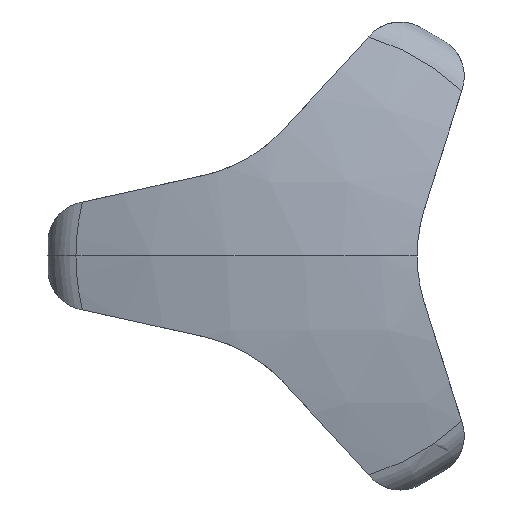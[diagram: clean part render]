
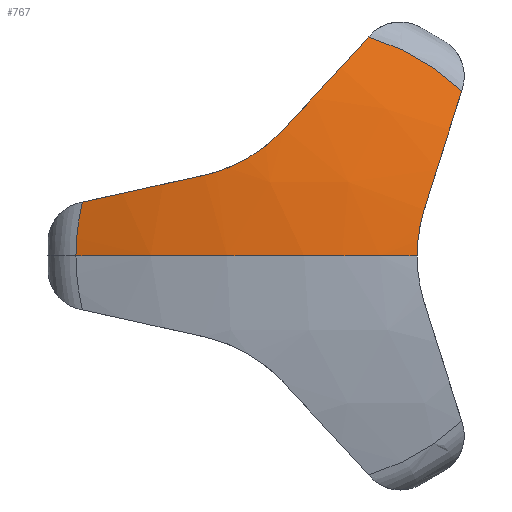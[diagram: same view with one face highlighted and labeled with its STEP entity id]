
A CAD part, left-side view. The second image highlights one B-rep face of the part: STEP entity #767.
In plain terms, the highlighted spherical face has radius 72 mm.
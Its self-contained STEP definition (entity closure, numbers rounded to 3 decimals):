
#14 = CARTESIAN_POINT ( 'NONE',  ( -29.112, 7.211, 8.674 ) ) ;
#37 = B_SPLINE_CURVE_WITH_KNOTS ( 'NONE', 3,
 ( #836, #1319, #205, #1063, #1564, #1096, #477, #1225 ),
 .UNSPECIFIED., .F., .F.,
 ( 4, 2, 2, 4 ),
 ( 0.005, 0.006, 0.007, 0.009 ),
 .UNSPECIFIED. ) ;
#46 = VERTEX_POINT ( 'NONE', #686 ) ;
#83 = CARTESIAN_POINT ( 'NONE',  ( -28.901, 9.753, 7.872 ) ) ;
#88 = ORIENTED_EDGE ( 'NONE', *, *, #1003, .T. ) ;
#108 = EDGE_CURVE ( 'NONE', #544, #272, #1503, .T. ) ;
#114 = ORIENTED_EDGE ( 'NONE', *, *, #646, .F. ) ;
#140 = EDGE_CURVE ( 'NONE', #524, #815, #1117, .T. ) ;
#160 = DIRECTION ( 'NONE',  ( 1., 0., 0. ) ) ;
#195 = CARTESIAN_POINT ( 'NONE',  ( -30., 0., 0. ) ) ;
#204 = AXIS2_PLACEMENT_3D ( 'NONE', #278, #773, #1155 ) ;
#205 = CARTESIAN_POINT ( 'NONE',  ( -29.149, -11.015, 0.77 ) ) ;
#222 = VERTEX_POINT ( 'NONE', #1600 ) ;
#240 = CARTESIAN_POINT ( 'NONE',  ( 42., 0., 0. ) ) ;
#243 = ORIENTED_EDGE ( 'NONE', *, *, #974, .T. ) ;
#244 = DIRECTION ( 'NONE',  ( 0., 0., 1. ) ) ;
#257 = DIRECTION ( 'NONE',  ( 0., 0., -1. ) ) ;
#272 = VERTEX_POINT ( 'NONE', #1267 ) ;
#278 = CARTESIAN_POINT ( 'NONE',  ( -26.481, 0., 0. ) ) ;
#281 = AXIS2_PLACEMENT_3D ( 'NONE', #354, #244, #492 ) ;
#292 = EDGE_CURVE ( 'NONE', #222, #1392, #1313, .T. ) ;
#326 = FACE_OUTER_BOUND ( 'NONE', #1479, .T. ) ;
#339 = AXIS2_PLACEMENT_3D ( 'NONE', #649, #160, #408 ) ;
#354 = CARTESIAN_POINT ( 'NONE',  ( 42., 0., 0. ) ) ;
#395 = CARTESIAN_POINT ( 'NONE',  ( -29.133, 4.2, 10.346 ) ) ;
#404 = EDGE_CURVE ( 'NONE', #46, #272, #881, .T. ) ;
#408 = DIRECTION ( 'NONE',  ( 0., 1., 0. ) ) ;
#417 = CIRCLE ( 'NONE', #339, 22.235 ) ;
#418 = DIRECTION ( 'NONE',  ( 0., -0.676, 0.737 ) ) ;
#422 = CARTESIAN_POINT ( 'NONE',  ( -29.128, 6.861, 8.825 ) ) ;
#434 = SPHERICAL_SURFACE ( 'NONE', #749, 72. ) ;
#449 = DIRECTION ( 'NONE',  ( 0., 0.954, 0.301 ) ) ;
#477 = CARTESIAN_POINT ( 'NONE',  ( -28.985, -11.464, 3.78 ) ) ;
#492 = DIRECTION ( 'NONE',  ( 0., -1., 0. ) ) ;
#511 = CARTESIAN_POINT ( 'NONE',  ( -29.155, 4.829, 9.914 ) ) ;
#521 = CARTESIAN_POINT ( 'NONE',  ( -28.901, 9.753, 7.872 ) ) ;
#524 = VERTEX_POINT ( 'NONE', #195 ) ;
#544 = VERTEX_POINT ( 'NONE', #825 ) ;
#565 = ORIENTED_EDGE ( 'NONE', *, *, #140, .T. ) ;
#593 = CIRCLE ( 'NONE', #934, 71.33 ) ;
#628 = CARTESIAN_POINT ( 'NONE',  ( 42., 7.223, 6.619 ) ) ;
#646 = EDGE_CURVE ( 'NONE', #1456, #1130, #417, .T. ) ;
#649 = CARTESIAN_POINT ( 'NONE',  ( -26.481, 0., 0. ) ) ;
#686 = CARTESIAN_POINT ( 'NONE',  ( -26.481, -6.262, 21.335 ) ) ;
#706 = ORIENTED_EDGE ( 'NONE', *, *, #404, .F. ) ;
#717 = EDGE_CURVE ( 'NONE', #46, #222, #593, .T. ) ;
#732 = CARTESIAN_POINT ( 'NONE',  ( -26.481, 21.608, 5.244 ) ) ;
#749 = AXIS2_PLACEMENT_3D ( 'NONE', #822, #1566, #935 ) ;
#751 = CARTESIAN_POINT ( 'NONE',  ( -26.481, 22.235, 0. ) ) ;
#767 = ADVANCED_FACE ( 'NONE', ( #326 ), #434, .T. ) ;
#769 = DIRECTION ( 'NONE',  ( 0., -0.737, -0.676 ) ) ;
#773 = DIRECTION ( 'NONE',  ( 1., 0., 0. ) ) ;
#792 = CARTESIAN_POINT ( 'NONE',  ( -29.048, 3.015, 11.297 ) ) ;
#805 = CARTESIAN_POINT ( 'NONE',  ( -29.155, -11., 0. ) ) ;
#815 = VERTEX_POINT ( 'NONE', #805 ) ;
#822 = CARTESIAN_POINT ( 'NONE',  ( 42., 0., 0. ) ) ;
#825 = CARTESIAN_POINT ( 'NONE',  ( -28.901, -11.694, 4.511 ) ) ;
#832 = AXIS2_PLACEMENT_3D ( 'NONE', #1239, #1265, #1369 ) ;
#836 = CARTESIAN_POINT ( 'NONE',  ( -29.155, -11., 0. ) ) ;
#880 = CARTESIAN_POINT ( 'NONE',  ( -28.985, 9.004, 8.038 ) ) ;
#881 = CIRCLE ( 'NONE', #204, 22.235 ) ;
#916 = CARTESIAN_POINT ( 'NONE',  ( -28.985, 2.459, 11.817 ) ) ;
#934 = AXIS2_PLACEMENT_3D ( 'NONE', #628, #769, #418 ) ;
#935 = DIRECTION ( 'NONE',  ( 0., 1., 0. ) ) ;
#974 = EDGE_CURVE ( 'NONE', #815, #544, #37, .T. ) ;
#1003 = EDGE_CURVE ( 'NONE', #1392, #1130, #1092, .T. ) ;
#1063 = CARTESIAN_POINT ( 'NONE',  ( -29.128, -11.074, 1.532 ) ) ;
#1064 = CARTESIAN_POINT ( 'NONE',  ( 42., -9.343, -2.946 ) ) ;
#1092 = CIRCLE ( 'NONE', #832, 71.33 ) ;
#1096 = CARTESIAN_POINT ( 'NONE',  ( -29.048, -11.291, 3.038 ) ) ;
#1117 = CIRCLE ( 'NONE', #281, 72. ) ;
#1130 = VERTEX_POINT ( 'NONE', #732 ) ;
#1135 = CARTESIAN_POINT ( 'NONE',  ( -29.155, 5.829, 9.336 ) ) ;
#1155 = DIRECTION ( 'NONE',  ( 0., 1., 0. ) ) ;
#1157 = ORIENTED_EDGE ( 'NONE', *, *, #108, .T. ) ;
#1171 = ORIENTED_EDGE ( 'NONE', *, *, #717, .T. ) ;
#1225 = CARTESIAN_POINT ( 'NONE',  ( -28.901, -11.694, 4.511 ) ) ;
#1239 = CARTESIAN_POINT ( 'NONE',  ( 42., 2.12, 9.564 ) ) ;
#1251 = AXIS2_PLACEMENT_3D ( 'NONE', #240, #257, #1481 ) ;
#1264 = ORIENTED_EDGE ( 'NONE', *, *, #1465, .F. ) ;
#1265 = DIRECTION ( 'NONE',  ( 0., -0.216, -0.976 ) ) ;
#1267 = CARTESIAN_POINT ( 'NONE',  ( -26.481, -15.346, 16.091 ) ) ;
#1286 = CARTESIAN_POINT ( 'NONE',  ( -28.901, 1.941, 12.383 ) ) ;
#1305 = CIRCLE ( 'NONE', #1251, 72. ) ;
#1313 = B_SPLINE_CURVE_WITH_KNOTS ( 'NONE', 3,
 ( #1286, #916, #792, #395, #511, #1135, #1508, #422, #14, #1404, #880, #521 ),
 .UNSPECIFIED., .F., .F.,
 ( 4, 2, 2, 2, 2, 4 ),
 ( 0., 0.002, 0.005, 0.006, 0.007, 0.009 ),
 .UNSPECIFIED. ) ;
#1319 = CARTESIAN_POINT ( 'NONE',  ( -29.155, -11., 0.385 ) ) ;
#1350 = AXIS2_PLACEMENT_3D ( 'NONE', #1064, #449, #1435 ) ;
#1369 = DIRECTION ( 'NONE',  ( 0., -0.976, 0.216 ) ) ;
#1392 = VERTEX_POINT ( 'NONE', #83 ) ;
#1404 = CARTESIAN_POINT ( 'NONE',  ( -29.048, 8.275, 8.26 ) ) ;
#1435 = DIRECTION ( 'NONE',  ( 0., 0.301, -0.954 ) ) ;
#1456 = VERTEX_POINT ( 'NONE', #751 ) ;
#1465 = EDGE_CURVE ( 'NONE', #524, #1456, #1305, .T. ) ;
#1479 = EDGE_LOOP ( 'NONE', ( #1264, #565, #243, #1157, #706, #1171, #1542, #88, #114 ) ) ;
#1481 = DIRECTION ( 'NONE',  ( -1., 0., 0. ) ) ;
#1503 = CIRCLE ( 'NONE', #1350, 71.33 ) ;
#1508 = CARTESIAN_POINT ( 'NONE',  ( -29.149, 6.171, 9.156 ) ) ;
#1542 = ORIENTED_EDGE ( 'NONE', *, *, #292, .T. ) ;
#1564 = CARTESIAN_POINT ( 'NONE',  ( -29.112, -11.117, 1.91 ) ) ;
#1566 = DIRECTION ( 'NONE',  ( 0., 0., 1. ) ) ;
#1600 = CARTESIAN_POINT ( 'NONE',  ( -28.901, 1.941, 12.383 ) ) ;
